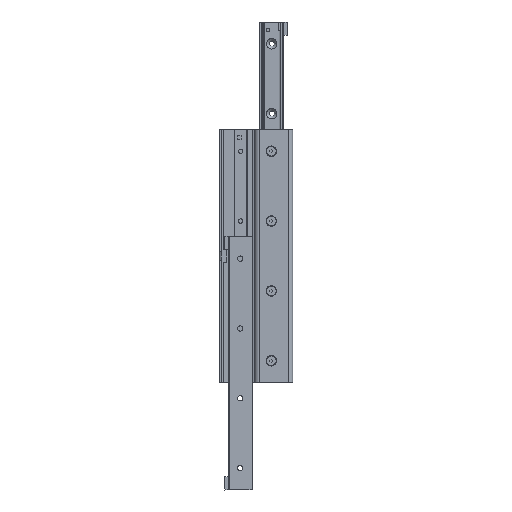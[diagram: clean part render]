
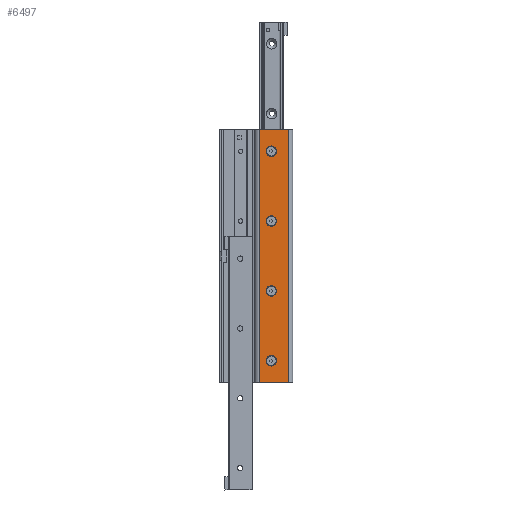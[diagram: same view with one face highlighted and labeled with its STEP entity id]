
A CAD part, left-side view. The second image highlights one B-rep face of the part: STEP entity #6497.
In plain terms, the highlighted planar face has unit normal (-1, 0, 0).
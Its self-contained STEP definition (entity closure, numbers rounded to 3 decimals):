
#68 = EDGE_CURVE ( 'NONE', #6011, #7686, #2293, .T. ) ;
#76 = LINE ( 'NONE', #1587, #5011 ) ;
#163 = CARTESIAN_POINT ( 'NONE',  ( 0., 24.5, -25. ) ) ;
#214 = CARTESIAN_POINT ( 'NONE',  ( 0., 24.5, -265. ) ) ;
#250 = ORIENTED_EDGE ( 'NONE', *, *, #6226, .T. ) ;
#326 = DIRECTION ( 'NONE',  ( 1., 0., 0. ) ) ;
#366 = DIRECTION ( 'NONE',  ( 0., -1., 0. ) ) ;
#540 = AXIS2_PLACEMENT_3D ( 'NONE', #859, #916, #3500 ) ;
#560 = CIRCLE ( 'NONE', #3020, 6. ) ;
#671 = CIRCLE ( 'NONE', #540, 6. ) ;
#687 = AXIS2_PLACEMENT_3D ( 'NONE', #1552, #1525, #7459 ) ;
#743 = EDGE_LOOP ( 'NONE', ( #8408, #4966, #2810, #5352 ) ) ;
#744 = DIRECTION ( 'NONE',  ( 0., -1., 0. ) ) ;
#859 = CARTESIAN_POINT ( 'NONE',  ( 0., 24.5, -265. ) ) ;
#916 = DIRECTION ( 'NONE',  ( 1., 0., 0. ) ) ;
#959 = AXIS2_PLACEMENT_3D ( 'NONE', #992, #326, #1639 ) ;
#992 = CARTESIAN_POINT ( 'NONE',  ( 0., 24.5, -105. ) ) ;
#1051 = PLANE ( 'NONE',  #6551 ) ;
#1099 = EDGE_CURVE ( 'NONE', #4941, #1974, #76, .T. ) ;
#1329 = VERTEX_POINT ( 'NONE', #4440 ) ;
#1353 = CARTESIAN_POINT ( 'NONE',  ( 0., 38.5, -290. ) ) ;
#1405 = CARTESIAN_POINT ( 'NONE',  ( 0., 5., -290. ) ) ;
#1409 = ORIENTED_EDGE ( 'NONE', *, *, #8437, .T. ) ;
#1500 = DIRECTION ( 'NONE',  ( 0., -1., 0. ) ) ;
#1502 = ORIENTED_EDGE ( 'NONE', *, *, #5639, .T. ) ;
#1525 = DIRECTION ( 'NONE',  ( 1., 0., 0. ) ) ;
#1552 = CARTESIAN_POINT ( 'NONE',  ( 0., 24.5, -185. ) ) ;
#1587 = CARTESIAN_POINT ( 'NONE',  ( 0., 38.5, -290. ) ) ;
#1639 = DIRECTION ( 'NONE',  ( 0., -1., 0. ) ) ;
#1670 = VECTOR ( 'NONE', #6660, 1000. ) ;
#1758 = CARTESIAN_POINT ( 'NONE',  ( 0., 24.5, -259. ) ) ;
#1917 = CARTESIAN_POINT ( 'NONE',  ( 0., 24.5, -99. ) ) ;
#1974 = VERTEX_POINT ( 'NONE', #2854 ) ;
#1976 = VERTEX_POINT ( 'NONE', #4881 ) ;
#2033 = VERTEX_POINT ( 'NONE', #8241 ) ;
#2113 = CARTESIAN_POINT ( 'NONE',  ( 0., 24.5, -105. ) ) ;
#2148 = VECTOR ( 'NONE', #2345, 1000. ) ;
#2231 = DIRECTION ( 'NONE',  ( 1., 0., 0. ) ) ;
#2293 = CIRCLE ( 'NONE', #5031, 6. ) ;
#2345 = DIRECTION ( 'NONE',  ( 0., 0., 1. ) ) ;
#2390 = ORIENTED_EDGE ( 'NONE', *, *, #68, .T. ) ;
#2412 = CIRCLE ( 'NONE', #2576, 6. ) ;
#2414 = AXIS2_PLACEMENT_3D ( 'NONE', #2113, #3328, #4668 ) ;
#2576 = AXIS2_PLACEMENT_3D ( 'NONE', #163, #5459, #5367 ) ;
#2714 = LINE ( 'NONE', #1405, #4291 ) ;
#2778 = EDGE_LOOP ( 'NONE', ( #1502, #4230 ) ) ;
#2791 = DIRECTION ( 'NONE',  ( 1., 0., 0. ) ) ;
#2810 = ORIENTED_EDGE ( 'NONE', *, *, #5572, .T. ) ;
#2854 = CARTESIAN_POINT ( 'NONE',  ( 0., 38.5, 0. ) ) ;
#2966 = EDGE_CURVE ( 'NONE', #7686, #6011, #8477, .T. ) ;
#3020 = AXIS2_PLACEMENT_3D ( 'NONE', #214, #2791, #1500 ) ;
#3037 = DIRECTION ( 'NONE',  ( 0., -1., 0. ) ) ;
#3086 = EDGE_CURVE ( 'NONE', #8116, #2033, #7351, .T. ) ;
#3264 = CARTESIAN_POINT ( 'NONE',  ( 0., 24.5, -19. ) ) ;
#3307 = EDGE_LOOP ( 'NONE', ( #3412, #2390 ) ) ;
#3328 = DIRECTION ( 'NONE',  ( 1., 0., 0. ) ) ;
#3412 = ORIENTED_EDGE ( 'NONE', *, *, #2966, .T. ) ;
#3423 = LINE ( 'NONE', #4095, #1670 ) ;
#3432 = DIRECTION ( 'NONE',  ( 0., 0., 1. ) ) ;
#3438 = VERTEX_POINT ( 'NONE', #4074 ) ;
#3500 = DIRECTION ( 'NONE',  ( 0., -1., 0. ) ) ;
#3592 = VERTEX_POINT ( 'NONE', #6165 ) ;
#3887 = ORIENTED_EDGE ( 'NONE', *, *, #3086, .T. ) ;
#3937 = CARTESIAN_POINT ( 'NONE',  ( 0., 24.5, -191. ) ) ;
#3953 = EDGE_LOOP ( 'NONE', ( #1409, #7516 ) ) ;
#4068 = CARTESIAN_POINT ( 'NONE',  ( 0., 24.5, -179. ) ) ;
#4074 = CARTESIAN_POINT ( 'NONE',  ( 0., 24.5, -271. ) ) ;
#4095 = CARTESIAN_POINT ( 'NONE',  ( 0., 5., 0. ) ) ;
#4119 = DIRECTION ( 'NONE',  ( 0., -1., 0. ) ) ;
#4230 = ORIENTED_EDGE ( 'NONE', *, *, #5078, .T. ) ;
#4269 = DIRECTION ( 'NONE',  ( 1., 0., 0. ) ) ;
#4291 = VECTOR ( 'NONE', #744, 1000. ) ;
#4299 = CARTESIAN_POINT ( 'NONE',  ( 0., 5., -290. ) ) ;
#4326 = DIRECTION ( 'NONE',  ( -1., 0., 0. ) ) ;
#4440 = CARTESIAN_POINT ( 'NONE',  ( 0., 24.5, -31. ) ) ;
#4463 = FACE_BOUND ( 'NONE', #3307, .T. ) ;
#4668 = DIRECTION ( 'NONE',  ( 0., -1., 0. ) ) ;
#4683 = VERTEX_POINT ( 'NONE', #1758 ) ;
#4881 = CARTESIAN_POINT ( 'NONE',  ( 0., 5., -290. ) ) ;
#4941 = VERTEX_POINT ( 'NONE', #1353 ) ;
#4946 = LINE ( 'NONE', #4299, #2148 ) ;
#4966 = ORIENTED_EDGE ( 'NONE', *, *, #1099, .F. ) ;
#5011 = VECTOR ( 'NONE', #3432, 1000. ) ;
#5031 = AXIS2_PLACEMENT_3D ( 'NONE', #8016, #2231, #4119 ) ;
#5037 = CARTESIAN_POINT ( 'NONE',  ( 0., 5., -290. ) ) ;
#5068 = EDGE_CURVE ( 'NONE', #1329, #7328, #2412, .T. ) ;
#5078 = EDGE_CURVE ( 'NONE', #3438, #4683, #560, .T. ) ;
#5261 = EDGE_LOOP ( 'NONE', ( #3887, #250 ) ) ;
#5352 = ORIENTED_EDGE ( 'NONE', *, *, #7564, .T. ) ;
#5367 = DIRECTION ( 'NONE',  ( 0., -1., 0. ) ) ;
#5459 = DIRECTION ( 'NONE',  ( 1., 0., 0. ) ) ;
#5484 = FACE_BOUND ( 'NONE', #5261, .T. ) ;
#5572 = EDGE_CURVE ( 'NONE', #4941, #1976, #2714, .T. ) ;
#5639 = EDGE_CURVE ( 'NONE', #4683, #3438, #671, .T. ) ;
#6011 = VERTEX_POINT ( 'NONE', #3937 ) ;
#6093 = CARTESIAN_POINT ( 'NONE',  ( 0., 24.5, -25. ) ) ;
#6165 = CARTESIAN_POINT ( 'NONE',  ( 0., 5., 0. ) ) ;
#6226 = EDGE_CURVE ( 'NONE', #2033, #8116, #7313, .T. ) ;
#6239 = EDGE_CURVE ( 'NONE', #1974, #3592, #3423, .T. ) ;
#6497 = ADVANCED_FACE ( 'NONE', ( #7597, #4463, #5484, #7815, #7189 ), #1051, .T. ) ;
#6551 = AXIS2_PLACEMENT_3D ( 'NONE', #5037, #4326, #3037 ) ;
#6660 = DIRECTION ( 'NONE',  ( 0., -1., 0. ) ) ;
#7189 = FACE_OUTER_BOUND ( 'NONE', #743, .T. ) ;
#7313 = CIRCLE ( 'NONE', #2414, 6. ) ;
#7328 = VERTEX_POINT ( 'NONE', #3264 ) ;
#7351 = CIRCLE ( 'NONE', #959, 6. ) ;
#7459 = DIRECTION ( 'NONE',  ( 0., -1., 0. ) ) ;
#7516 = ORIENTED_EDGE ( 'NONE', *, *, #5068, .T. ) ;
#7564 = EDGE_CURVE ( 'NONE', #1976, #3592, #4946, .T. ) ;
#7597 = FACE_BOUND ( 'NONE', #2778, .T. ) ;
#7686 = VERTEX_POINT ( 'NONE', #4068 ) ;
#7807 = AXIS2_PLACEMENT_3D ( 'NONE', #6093, #4269, #366 ) ;
#7815 = FACE_BOUND ( 'NONE', #3953, .T. ) ;
#7878 = CIRCLE ( 'NONE', #7807, 6. ) ;
#8016 = CARTESIAN_POINT ( 'NONE',  ( 0., 24.5, -185. ) ) ;
#8116 = VERTEX_POINT ( 'NONE', #1917 ) ;
#8241 = CARTESIAN_POINT ( 'NONE',  ( 0., 24.5, -111. ) ) ;
#8408 = ORIENTED_EDGE ( 'NONE', *, *, #6239, .F. ) ;
#8437 = EDGE_CURVE ( 'NONE', #7328, #1329, #7878, .T. ) ;
#8477 = CIRCLE ( 'NONE', #687, 6. ) ;
